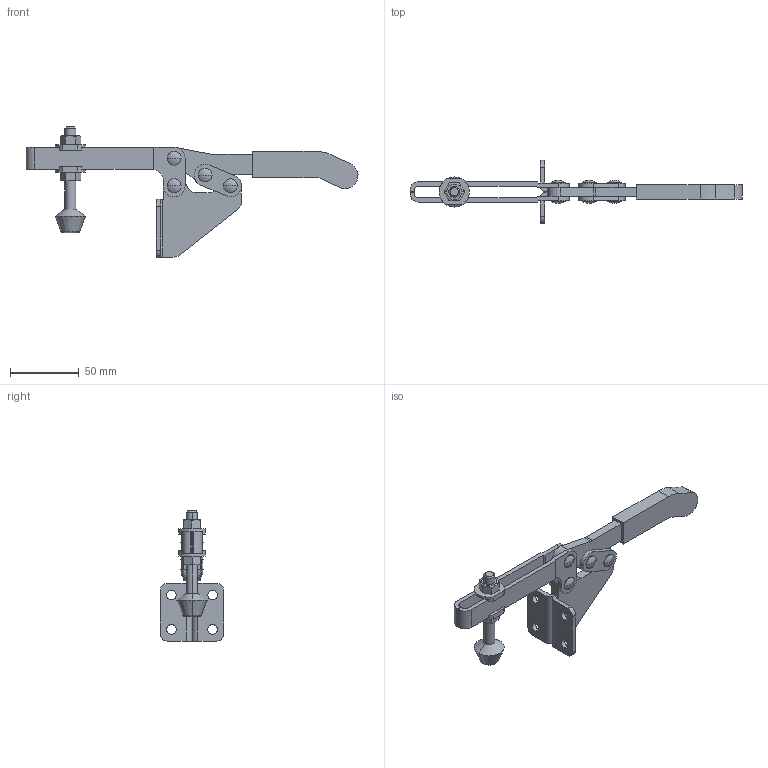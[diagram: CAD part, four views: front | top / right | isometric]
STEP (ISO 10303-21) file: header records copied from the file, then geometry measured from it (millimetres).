
FILE_DESCRIPTION(('CATIA V5 STEP Exchange'),'2;1');
FILE_NAME('D:\Model\toggle\toggle_standard\KJF_023_22A.stp','2005-06-24T02:37:05+00:00',('none'),('none'),'CATIA Version 5 Release 11 (IN-9)','CATIA V5 STEP AP203',' none');
FILE_SCHEMA(('CONFIG_CONTROL_DESIGN'));
Length unit declared in the file: millimetre
Products named in the file (1): Part1
Bounding box: 241.96 x 46 x 94.89 mm (x, y, z)
Volume: 71472.8 mm3; surface area: 39231.2 mm2
Topology: 15 solids, 15 shells, 214 faces, 527 edges, 336 vertices
Faces by surface type: plane 104, cylinder 82, sphere 16, torus 6, cone 6
Entity records: 6047 total; most frequent: CARTESIAN_POINT 1204, ORIENTED_EDGE 1022, DIRECTION 847, EDGE_CURVE 511, AXIS2_PLACEMENT_3D 393, VERTEX_POINT 336, VECTOR 279, LINE 279
